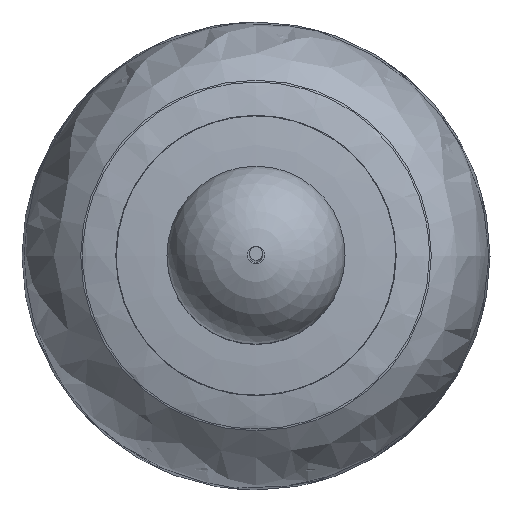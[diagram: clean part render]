
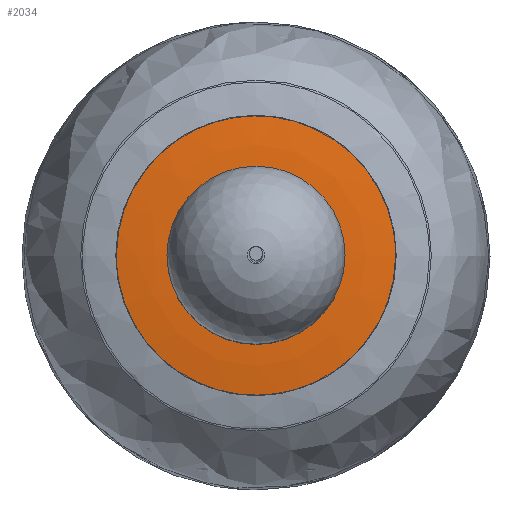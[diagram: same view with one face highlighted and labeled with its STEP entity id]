
A CAD part, top view. The second image highlights one B-rep face of the part: STEP entity #2034.
In plain terms, the highlighted free-form (B-spline) face has degree [2, 2] with [3, 9] control points.
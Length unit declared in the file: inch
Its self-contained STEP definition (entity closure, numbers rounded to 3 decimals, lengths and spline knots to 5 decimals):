
#41=(
BOUNDED_SURFACE()
B_SPLINE_SURFACE(2,2,((#5489,#5490,#5491,#5492,#5493,#5494,#5495,#5496,
#5497),(#5498,#5499,#5500,#5501,#5502,#5503,#5504,#5505,#5506),(#5507,#5508,
#5509,#5510,#5511,#5512,#5513,#5514,#5515)),.UNSPECIFIED.,.F.,.T.,.F.)
B_SPLINE_SURFACE_WITH_KNOTS((3,3),(3,2,2,2,3),(1.41819,1.54896),
(-3.14159,-1.5708,0.,1.5708,3.14159),
 .UNSPECIFIED.)
GEOMETRIC_REPRESENTATION_ITEM()
RATIONAL_B_SPLINE_SURFACE(((1.,0.707,1.,0.707,1.,
0.707,1.,0.707,1.),(0.998,0.706,
0.998,0.706,0.998,0.706,
0.998,0.706,0.998),(1.,0.707,
1.,0.707,1.,0.707,1.,0.707,1.)))
REPRESENTATION_ITEM('')
SURFACE()
);
#622=FACE_OUTER_BOUND('',#737,.T.);
#737=EDGE_LOOP('',(#1884,#1885,#1886,#1887,#1888));
#811=CIRCLE('',#2260,1.83251);
#812=CIRCLE('',#2261,1.83251);
#813=CIRCLE('',#2262,1.06);
#814=CIRCLE('',#2263,5.93386);
#1029=VERTEX_POINT('',#5478);
#1030=VERTEX_POINT('',#5486);
#1031=VERTEX_POINT('',#5516);
#1316=EDGE_CURVE('',#1030,#1029,#811,.T.);
#1317=EDGE_CURVE('',#1029,#1030,#812,.T.);
#1318=EDGE_CURVE('',#1031,#1031,#813,.T.);
#1319=EDGE_CURVE('',#1031,#1030,#814,.T.);
#1884=ORIENTED_EDGE('',*,*,#1318,.F.);
#1885=ORIENTED_EDGE('',*,*,#1319,.T.);
#1886=ORIENTED_EDGE('',*,*,#1316,.T.);
#1887=ORIENTED_EDGE('',*,*,#1317,.T.);
#1888=ORIENTED_EDGE('',*,*,#1319,.F.);
#2034=ADVANCED_FACE('',(#622),#41,.F.);
#2260=AXIS2_PLACEMENT_3D('',#5487,#2808,#2809);
#2261=AXIS2_PLACEMENT_3D('',#5488,#2810,#2811);
#2262=AXIS2_PLACEMENT_3D('',#5517,#2812,#2813);
#2263=AXIS2_PLACEMENT_3D('',#5518,#2814,#2815);
#2808=DIRECTION('center_axis',(0.,0.,1.));
#2809=DIRECTION('ref_axis',(1.,0.,0.));
#2810=DIRECTION('center_axis',(0.,0.,1.));
#2811=DIRECTION('ref_axis',(1.,0.,0.));
#2812=DIRECTION('center_axis',(0.,0.,1.));
#2813=DIRECTION('ref_axis',(1.,0.,0.));
#2814=DIRECTION('center_axis',(0.,-1.,0.));
#2815=DIRECTION('ref_axis',(-1.,0.,0.));
#5478=CARTESIAN_POINT('',(1.83251,0.,4.68976));
#5486=CARTESIAN_POINT('',(-1.83251,0.,4.68976));
#5487=CARTESIAN_POINT('Origin',(0.,0.,4.68976));
#5488=CARTESIAN_POINT('Origin',(0.,0.,4.68976));
#5489=CARTESIAN_POINT('Ctrl Pts',(-1.83251,0.,4.68976));
#5490=CARTESIAN_POINT('Ctrl Pts',(-1.83251,-1.83251,4.68976));
#5491=CARTESIAN_POINT('Ctrl Pts',(0.,-1.83251,
4.68976));
#5492=CARTESIAN_POINT('Ctrl Pts',(1.83251,-1.83251,4.68976));
#5493=CARTESIAN_POINT('Ctrl Pts',(1.83251,0.,4.68976));
#5494=CARTESIAN_POINT('Ctrl Pts',(1.83251,1.83251,4.68976));
#5495=CARTESIAN_POINT('Ctrl Pts',(0.,1.83251,
4.68976));
#5496=CARTESIAN_POINT('Ctrl Pts',(-1.83251,1.83251,4.68976));
#5497=CARTESIAN_POINT('Ctrl Pts',(-1.83251,0.,4.68976));
#5498=CARTESIAN_POINT('Ctrl Pts',(-1.44847,0.,4.74883));
#5499=CARTESIAN_POINT('Ctrl Pts',(-1.44847,-1.44847,4.74883));
#5500=CARTESIAN_POINT('Ctrl Pts',(0.,-1.44847,
4.74883));
#5501=CARTESIAN_POINT('Ctrl Pts',(1.44847,-1.44847,4.74883));
#5502=CARTESIAN_POINT('Ctrl Pts',(1.44847,0.,4.74883));
#5503=CARTESIAN_POINT('Ctrl Pts',(1.44847,1.44847,4.74883));
#5504=CARTESIAN_POINT('Ctrl Pts',(0.,1.44847,
4.74883));
#5505=CARTESIAN_POINT('Ctrl Pts',(-1.44847,1.44847,4.74883));
#5506=CARTESIAN_POINT('Ctrl Pts',(-1.44847,0.,4.74883));
#5507=CARTESIAN_POINT('Ctrl Pts',(-1.06,0.,4.75731));
#5508=CARTESIAN_POINT('Ctrl Pts',(-1.06,-1.06,4.75731));
#5509=CARTESIAN_POINT('Ctrl Pts',(0.,-1.06,4.75731));
#5510=CARTESIAN_POINT('Ctrl Pts',(1.06,-1.06,4.75731));
#5511=CARTESIAN_POINT('Ctrl Pts',(1.06,0.,4.75731));
#5512=CARTESIAN_POINT('Ctrl Pts',(1.06,1.06,4.75731));
#5513=CARTESIAN_POINT('Ctrl Pts',(0.,1.06,4.75731));
#5514=CARTESIAN_POINT('Ctrl Pts',(-1.06,1.06,4.75731));
#5515=CARTESIAN_POINT('Ctrl Pts',(-1.06,0.,4.75731));
#5516=CARTESIAN_POINT('',(-1.06,0.,4.75731));
#5517=CARTESIAN_POINT('Origin',(0.,0.,4.75731));
#5518=CARTESIAN_POINT('Origin',(-0.93046,0.,
-1.17514));
